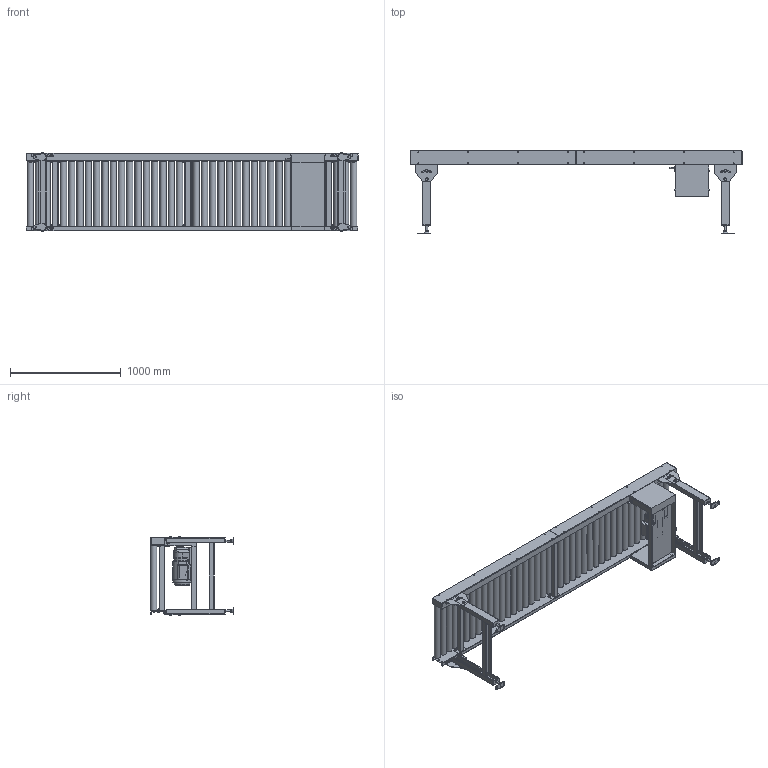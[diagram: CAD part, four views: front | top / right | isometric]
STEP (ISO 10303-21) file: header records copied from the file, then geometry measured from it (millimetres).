
FILE_DESCRIPTION( (''), '2;1');
FILE_NAME ('WEB-MCC3H-57-3-075-630-75-300-L-20S.stp','2025-09-17T16:23:05',(''),(''),'spGate 20.6.2 (****-****-****-****)','','');
FILE_SCHEMA (('AUTOMOTIVE_DESIGN'));
Length unit declared in the file: millimetre
Products named in the file (15): WEB-MCC3H-57-3-075-630-75-300-L-20S; TEMP_X_T-prt0; TEMP_X_T-prt1; TEMP_X_T-prt2; TEMP_X_T-prt3; TEMP_X_T-prt4; TEMP_X_T-prt5; TEMP_X_T-prt6; TEMP_X_T-prt7; TEMP_X_T-prt8; TEMP_X_T-prt9; TEMP_X_T-prt10; TEMP_X_T-prt11; TEMP_X_T-prt12; TEMP_X_T-prt13
Assembly tree (14 placements, depth 2):
  WEB-MCC3H-57-3-075-630-75-300-L-20S
    TEMP_X_T-prt0
    TEMP_X_T-prt1
    TEMP_X_T-prt2
    TEMP_X_T-prt3
    TEMP_X_T-prt4
    TEMP_X_T-prt5
    TEMP_X_T-prt6
    TEMP_X_T-prt7
    TEMP_X_T-prt8
    TEMP_X_T-prt9
    TEMP_X_T-prt10
    TEMP_X_T-prt11
    TEMP_X_T-prt12
    TEMP_X_T-prt13
Bounding box: 3002.4 x 750 x 714.4 mm (x, y, z)
Volume: 105009506.7 mm3; surface area: 9662042.6 mm2
Topology: 14 solids, 14 shells, 1846 faces, 4829 edges, 3226 vertices
Faces by surface type: plane 1404, cylinder 389, bspline 29, sphere 24
Full cylindrical faces by diameter (mm): 7 x1, 8 x3, 8.5 x4, 9.2 x4, 9.4 x24, 10 x30, 12 x45, 13 x12, 16 x52, 18.4 x16, 21 x18, 24 x8, 25 x4, 27 x1, 28 x1, 30 x2, 31 x1, 47 x40, 57 x40, 63 x1, 149.6 x1, 153 x1
Entity records: 97424 total; most frequent: CARTESIAN_POINT 12230, DIRECTION 9646, ORIENTED_EDGE 9610, COLOUR_RGB 6665, PRESENTATION_STYLE_ASSIGNMENT 6665, STYLED_ITEM 6665, EDGE_CURVE 4805, DRAUGHTING_PRE_DEFINED_CURVE_FONT 4805
